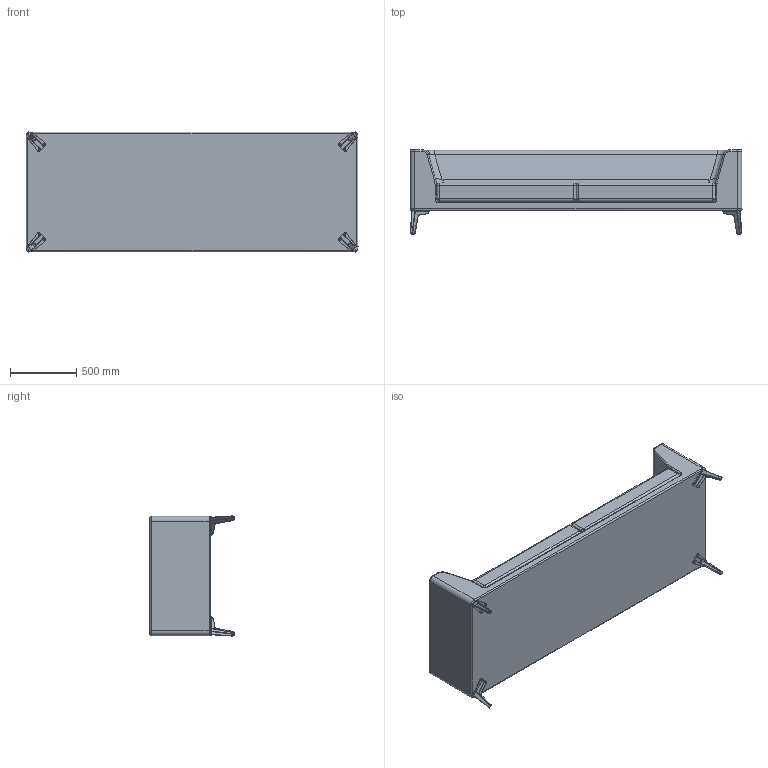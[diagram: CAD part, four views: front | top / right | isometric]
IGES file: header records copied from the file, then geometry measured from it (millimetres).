
Start section: SolidWorks IGES file using analytic representation for surfaces
Global section: file name: C:\Users\David.BDLE\Desktop\401LA Mcqueen Sofa Medium_vc_2017-06-02\401LA Mcqueen Sofa Medium_3D IGS.IGS; native system: SolidWorks 2016; preprocessor: SolidWorks 2016; author: David; date: 210204.150613; units: millimetre
Bounding box: 2500 x 633 x 904.34 mm (x, y, z)
Surface area: 8666019.1 mm2 (no closed solid volume)
Topology: 0 solids, 0 shells, 311 faces, 3859 edges, 3845 vertices
Faces by surface type: bspline 164, revolution 147
